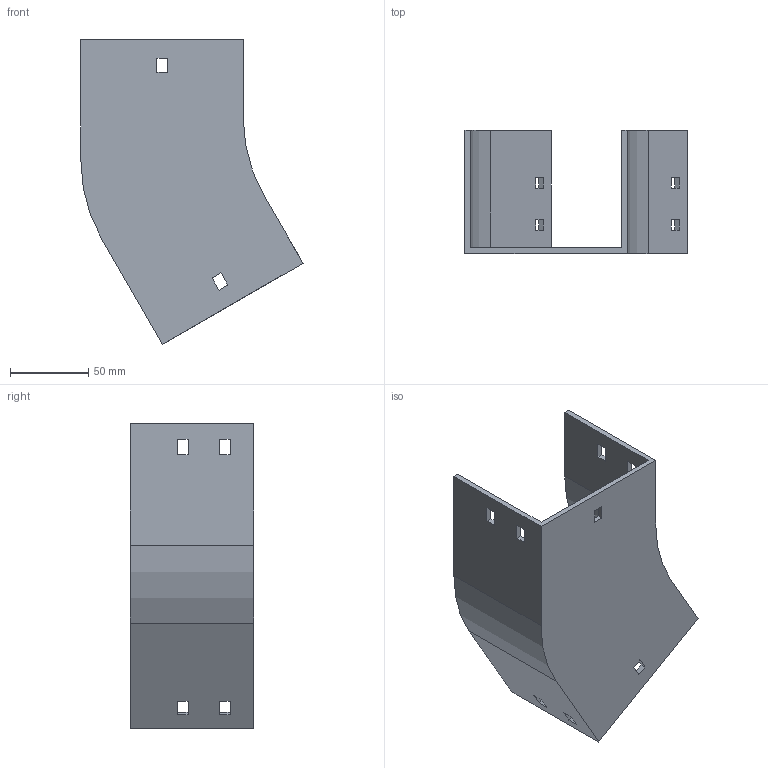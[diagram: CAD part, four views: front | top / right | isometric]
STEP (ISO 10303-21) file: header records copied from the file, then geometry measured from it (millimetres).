
FILE_DESCRIPTION (( 'STEP AP214' ), '1' );
FILE_NAME ('12B1C100.step', '2025-02-21T09:35:24', ( '' ), ( '' ), 'SwSTEP 2.0', 'SolidWorks 2023', '' );
FILE_SCHEMA (( 'AUTOMOTIVE_DESIGN' ));
Length unit declared in the file: millimetre
Products named in the file (1): 12B1C100
Bounding box: 142.4 x 79 x 195.3 mm (x, y, z)
Volume: 158930.4 mm3; surface area: 95033 mm2
Topology: 1 solids, 1 shells, 58 faces, 168 edges, 112 vertices
Faces by surface type: plane 54, cylinder 4
Entity records: 1943 total; most frequent: CARTESIAN_POINT 339, ORIENTED_EDGE 336, DIRECTION 294, EDGE_CURVE 168, LINE 160, VECTOR 160, VERTEX_POINT 112, EDGE_LOOP 78
